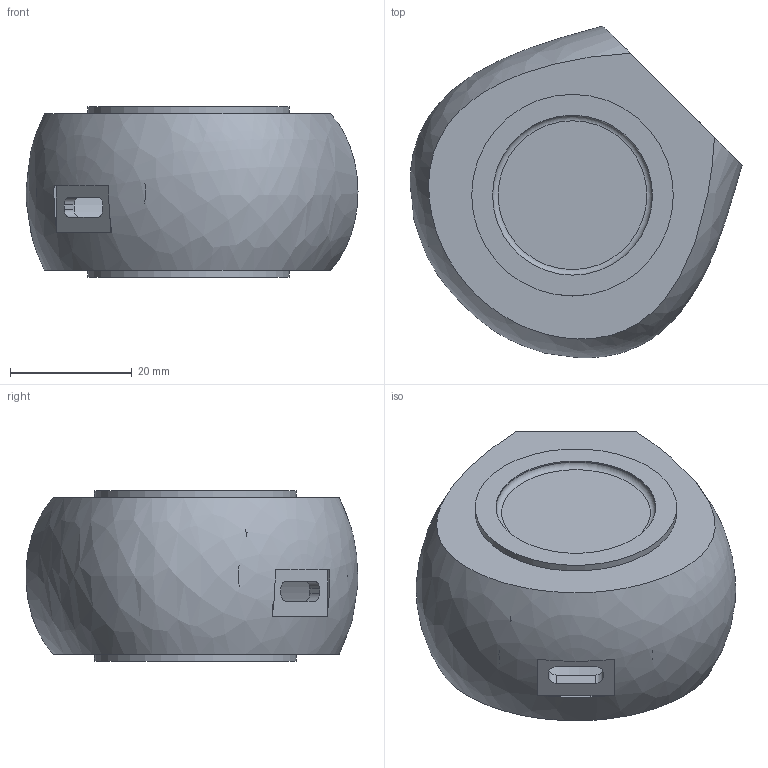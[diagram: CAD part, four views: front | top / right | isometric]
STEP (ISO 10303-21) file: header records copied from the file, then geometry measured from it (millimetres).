
FILE_DESCRIPTION(/* description */ ('STEP AP242 Edition 2','CAx-IF Rec.Pracs.---Representation and Presentation of Product Manufacturing Information (PMI)---4.0---2014-10-13','CAx-IF Rec.Pracs.---3D Tessellated Geometry---0.4---2014-09-14','2;1','CAx-IF Rec.Pracs.---User Defined Attributes---1.5---2016-08-15'),/* implementation_level */ '2;1');
FILE_NAME(/* name */ 'Part Studio 2 - Handle cap',/* time_stamp */ '2026-02-06T19:17:59Z',/* author */ (''),/* organization */ (''),/* preprocessor_version */ 'ST-DEVELOPER v20',/* originating_system */ 'ONSHAPE BY PTC INC, 1.210',/* authorisation */ ' ');
FILE_SCHEMA (('AP242_MANAGED_MODEL_BASED_3D_ENGINEERING_MIM_LF { 1 0 10303 442 3 1 4 }'));
Length unit declared in the file: metre
Products named in the file (1): Handle cap
Bounding box: 54.43 x 54.41 x 28 mm (x, y, z)
Volume: 33390.1 mm3; surface area: 11554.5 mm2
Topology: 1 solids, 1 shells, 45 faces, 109 edges, 71 vertices
Faces by surface type: plane 33, cylinder 8, bspline 2, torus 2
Full cylindrical faces by diameter (mm): 26.22 x2, 33.06 x2
Entity records: 1953 total; most frequent: CARTESIAN_POINT 927, ORIENTED_EDGE 198, DIRECTION 195, EDGE_CURVE 99, VERTEX_POINT 68, LINE 67, VECTOR 67, AXIS2_PLACEMENT_3D 64
